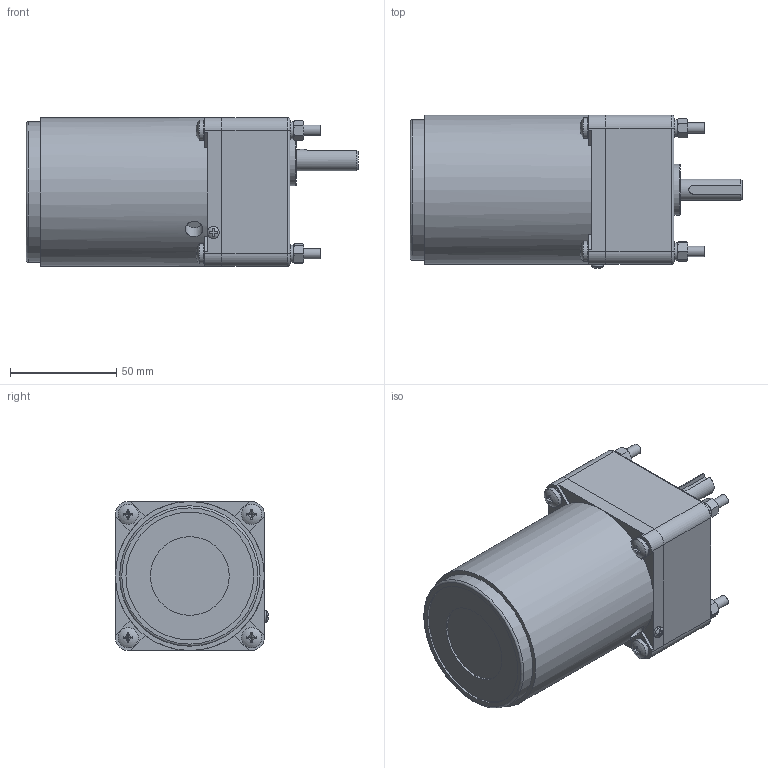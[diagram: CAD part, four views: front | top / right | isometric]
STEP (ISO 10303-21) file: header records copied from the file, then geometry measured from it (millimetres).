
FILE_DESCRIPTION(/* description */ (''),/* implementation_level */ '2;1');
FILE_NAME(/* name */ '70矮箱T-25普通.stp',/* time_stamp */ '2022-10-31T09:37:08+08:00',/* author */ (''),/* organization */ (''),/* preprocessor_version */ 'ST-DEVELOPER v16.7',/* originating_system */ 'SIEMENS PLM Software NX 1899',/* authorisation */ '');
FILE_SCHEMA (('AP203_CONFIGURATION_CONTROLLED_3D_DESIGN_OF_MECHANICAL_PARTS_AND_ASSEMBLIES_MIM_LF { 1 0 10303 403 2 1 2}'));
Length unit declared in the file: millimetre
Products named in the file (1): yf186188FEB6lca3
Bounding box: 156 x 72.04 x 70 mm (x, y, z)
Volume: 512748.7 mm3; surface area: 60666.2 mm2
Topology: 22 solids, 23 shells, 389 faces, 895 edges, 570 vertices
Faces by surface type: plane 156, bspline 80, cylinder 74, cone 63, torus 11, sphere 5
Full cylindrical faces by diameter (mm): 2.7 x1, 4.351 x4, 4.826 x4, 5 x4, 5.3 x8, 5.6 x1, 6 x9, 8.3 x1, 9 x8, 9.5 x4, 10 x1, 24 x1, 37 x1, 60 x1, 63 x1, 66 x1, 66.6 x2, 70 x1
Entity records: 12145 total; most frequent: CARTESIAN_POINT 3247, ORIENTED_EDGE 1604, DIRECTION 1363, EDGE_CURVE 802, AXIS2_PLACEMENT_3D 586, VERTEX_POINT 556, EDGE_LOOP 525, ADVANCED_FACE 389
